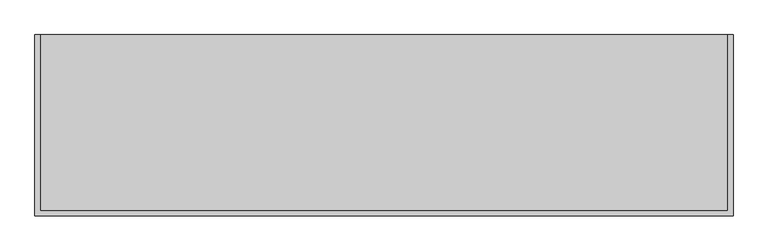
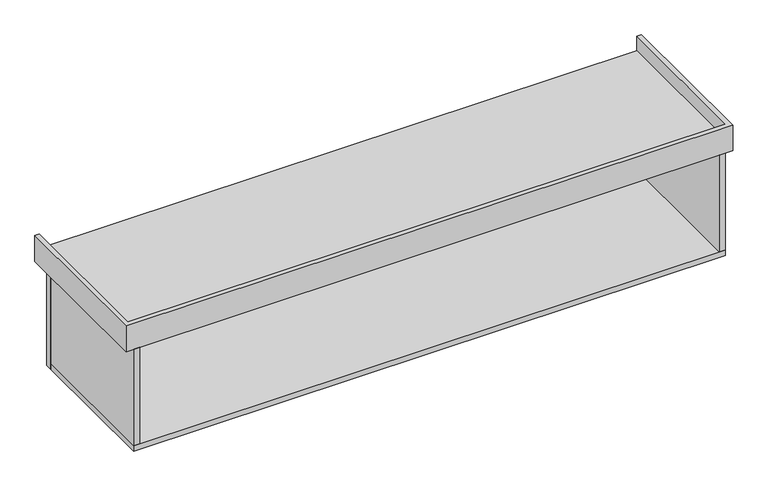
"""IFC4 building model written with IfcOpenShell, lengths in millimetres: furniture geometry, Mueble colgado 2 cajones al lado - lavabo sobreponer : MB6 mueble baño colgado-2 cajones al lado 152."""

from ifc_helpers import new_model, si_unit, frame, origin, place, context, project, spatial, polyline, outline, extrude, faceted_brep, source, transform, mapped, element, save


def furniture_20f1eb51(model_context):
    return source(origin(), model_context, "Body", "SolidModel", [
        extrude(outline(polyline([(-860.0, 550.0), (-860.0, 570.0), (120.0, 570.0), (120.0, 550.0), (-860.0, 550.0)])), frame((0.0, 0.0, 350.0), z_axis=(0.0, 0.0, 1.0), x_axis=(1.0, 0.0, 0.0)), (0.0, 0.0, 1.0), 350.0),
        faceted_brep([(-885.0, 595.0, 800.0), (-870.0, 595.0, 800.0), (-870.0, 595.0, 750.0), (1120.0, 595.0, 750.0), (1120.0, 595.0, 800.0), (1135.0, 595.0, 800.0), (1135.0, 595.0, 710.0), (-885.0, 595.0, 710.0), (-885.0, 70.0, 800.0), (1135.0, 70.0, 800.0), (1120.0, 85.0, 800.0), (-870.0, 85.0, 800.0), (-870.0, 85.0, 750.0), (-885.0, 70.0, 710.0), (1120.0, 85.0, 750.0), (1135.0, 70.0, 710.0)], [[[0, 1, 2, 3, 4, 5, 6, 7]], [[1, 0, 8, 9, 5, 4, 10, 11]], [[2, 1, 11, 12]], [[0, 7, 13, 8]], [[11, 10, 14, 12]], [[9, 8, 13, 15]], [[10, 4, 3, 14]], [[6, 5, 9, 15]], [[3, 2, 12, 14]], [[6, 15, 13, 7]]]),
        extrude(outline(polyline([(1110.0, 570.0), (1110.0, 550.0), (130.0, 550.0), (130.0, 570.0), (1110.0, 570.0)])), frame((0.0, 0.0, 350.0), z_axis=(0.0, 0.0, 1.0), x_axis=(1.0, 0.0, 0.0)), (0.0, 0.0, 1.0), 350.0),
        extrude(outline(polyline([(1110.0, 70.0), (1090.0, 70.0), (1090.0, 545.0), (1110.0, 545.0), (1110.0, 70.0)])), frame((0.0, 0.0, 370.0), z_axis=(0.0, 0.0, 1.0), x_axis=(1.0, 0.0, 0.0)), (0.0, 0.0, 1.0), 340.0),
        extrude(outline(polyline([(-840.0, 70.0), (-860.0, 70.0), (-860.0, 545.0), (-840.0, 545.0), (-840.0, 70.0)])), frame((0.0, 0.0, 370.0), z_axis=(0.0, 0.0, 1.0), x_axis=(1.0, 0.0, 0.0)), (0.0, 0.0, 1.0), 340.0),
        extrude(outline(polyline([(1110.0, 545.0), (1110.0, 70.0), (-860.0, 70.0), (-860.0, 545.0), (1110.0, 545.0)])), frame((0.0, 0.0, 350.0), z_axis=(0.0, 0.0, 1.0), x_axis=(1.0, 0.0, 0.0)), (0.0, 0.0, 1.0), 20.0),
    ])


if __name__ == "__main__":
    model = new_model("IFC4")
    model_context = context("Model", 3, world=origin())
    ifc_project = project(units=[si_unit("LENGTHUNIT", "METRE", prefix="MILLI")], contexts=[model_context])
    site = spatial("IfcSite", under=ifc_project)
    building = spatial("IfcBuilding", under=site)
    placement = place(None, origin())
    furniture_shape = furniture_20f1eb51(model_context)
    element("IfcFurniture", 1, ObjectType="Mueble colgado 2 cajones al lado - lavabo sobreponer : MB6 mueble baño colgado-2 cajones al lado 152", at=placement, inside=building, context=model_context, shape_type="MappedRepresentation", body=[
        mapped(furniture_shape, transform((0.0, 0.0, 0.0), x_axis=(1.0, 0.0, 0.0), y_axis=(0.0, 1.0, 0.0), z_axis=(0.0, 0.0, 1.0))),
    ])
    save(model, "model.ifc")
